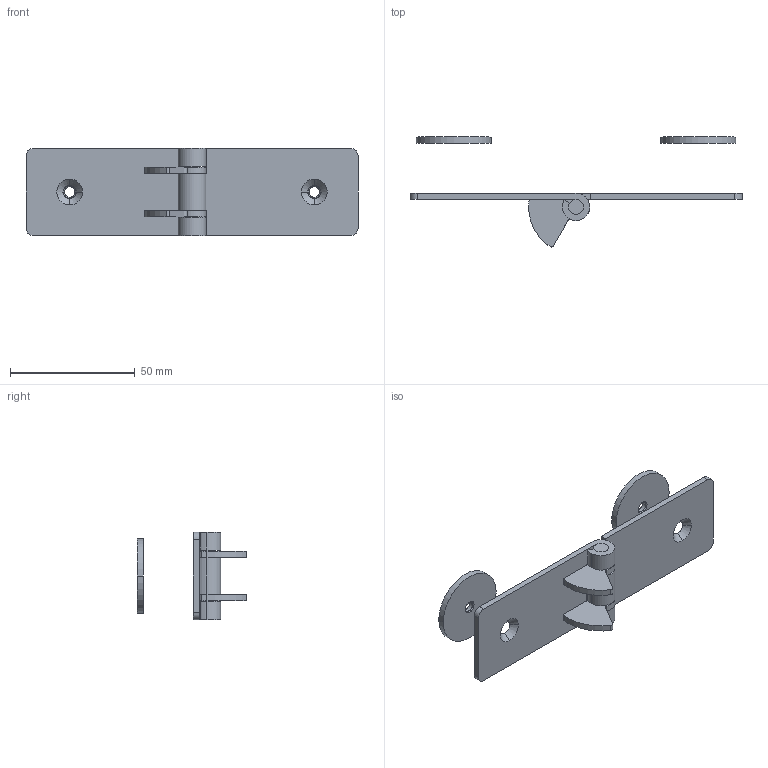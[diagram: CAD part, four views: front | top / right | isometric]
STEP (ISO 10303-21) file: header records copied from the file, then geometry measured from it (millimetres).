
FILE_DESCRIPTION((''),'2;1');
FILE_NAME('6052.01.stp','2015-07-20T11:11:55',(''),(''),'Mechanical Desktop 2006','Mechanical Desktop 2006',', , ');
FILE_SCHEMA(('CONFIG_CONTROL_DESIGN'));
Length unit declared in the file: millimetre
Products named in the file (5): 6052.01; 1; 2; 3; 4
Assembly tree (4 placements, depth 2):
  6052.01
    1
    2
    3
    4
Bounding box: 133 x 44.06 x 35 mm (x, y, z)
Volume: 18261 mm3; surface area: 16410.7 mm2
Topology: 4 solids, 4 shells, 108 faces, 280 edges, 184 vertices
Faces by surface type: cylinder 50, plane 34, cone 24
Entity records: 3713 total; most frequent: DIRECTION 658, CARTESIAN_POINT 581, ORIENTED_EDGE 560, EDGE_CURVE 280, AXIS2_PLACEMENT_3D 261, VERTEX_POINT 184, CIRCLE 144, VECTOR 136
